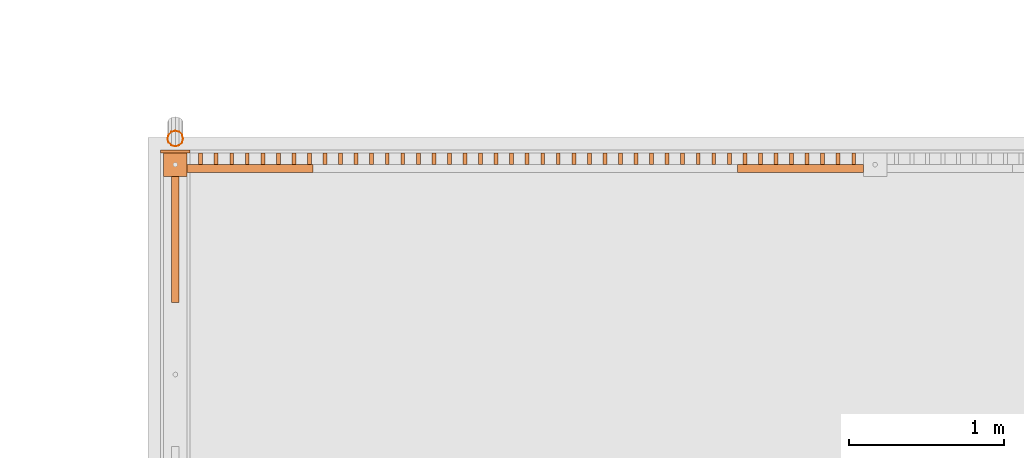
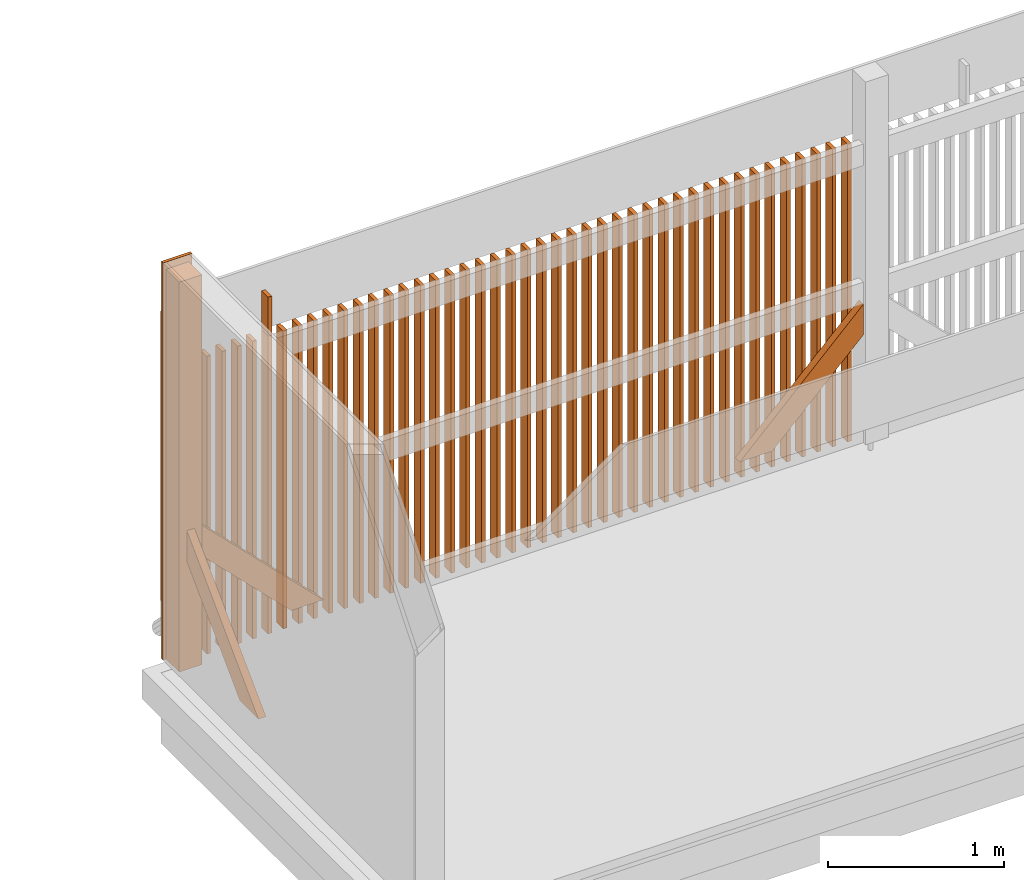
# One storey, part 357 of 418: 51 proxies.
"""IFC2X3 building model written with IfcOpenShell, lengths in millimetres."""

from ifc_helpers import new_model, entity, si_unit, converted_unit, derived_unit, money_unit, direction, frame, frame_2d, origin_with_axes, origin_2d_with_axis, place, context, subcontext, project, spatial, polyline, rectangle, outline, extrude, clip, halfspace, open_shell, surface_model, source, transform, mapped, material, type_object, element, save


model = new_model("IFC2X3")

# Units and contexts
model_context = context("Model", 3, precision=0.01, world=origin_with_axes(), true_north=direction((0.0, 1.0)))
body_context = subcontext(model_context, "Body", "Model", "MODEL_VIEW")
ifc_project = project(units=[si_unit("LENGTHUNIT", "METRE", prefix="MILLI"), si_unit("AREAUNIT", "SQUARE_METRE"), si_unit("VOLUMEUNIT", "CUBIC_METRE"), converted_unit("PLANEANGLEUNIT", "DEGREE", entity("IfcPlaneAngleMeasure", 0.0174532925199), si_unit("PLANEANGLEUNIT", "RADIAN"), dimensions=[0, 0, 0, 0, 0, 0, 0]), si_unit("SOLIDANGLEUNIT", "STERADIAN"), money_unit("EUR"), converted_unit("TIMEUNIT", "Year", entity("IfcTimeMeasure", 31556926.0), si_unit("TIMEUNIT", "SECOND"), dimensions=[0, 0, 1, 0, 0, 0, 0]), si_unit("MASSUNIT", "GRAM", prefix="KILO"), si_unit("THERMODYNAMICTEMPERATUREUNIT", "DEGREE_CELSIUS"), si_unit("LUMINOUSINTENSITYUNIT", "LUMEN"), si_unit("ENERGYUNIT", "JOULE", prefix="MEGA"), derived_unit("THERMALCONDUCTANCEUNIT", [(si_unit("POWERUNIT", "WATT"), 1), (si_unit("LENGTHUNIT", "METRE"), -1), (si_unit("THERMODYNAMICTEMPERATUREUNIT", "KELVIN"), -1)]), derived_unit("SPECIFICHEATCAPACITYUNIT", [(si_unit("ENERGYUNIT", "JOULE"), 1), (si_unit("MASSUNIT", "GRAM", prefix="KILO"), -1), (si_unit("THERMODYNAMICTEMPERATUREUNIT", "KELVIN"), -1)]), derived_unit("MASSDENSITYUNIT", [(si_unit("MASSUNIT", "GRAM", prefix="KILO"), 1), (si_unit("VOLUMEUNIT", "CUBIC_METRE"), -1)])], contexts=[model_context])

# Site, building, storey
site_placement = place(None, origin_with_axes())
site = spatial("IfcSite", under=ifc_project, at=site_placement, Name="Paldiski mnt 245/1, Tallinn, Harjumaa", CompositionType="COMPLEX")
building_placement = place(site_placement, origin_with_axes())
building = spatial("IfcBuilding", under=site, at=building_placement, Name="RKAS Hoone üldnimetus (kasutust iseloomustav) -> IFC Project Manager -> SOLIBRI", CompositionType="ELEMENT")
storey_placement = place(building_placement, origin_with_axes())
storey = spatial("IfcBuildingStorey", under=building, at=storey_placement, Name="Esimene korrus", CompositionType="ELEMENT", Elevation=0.0)

# Proxies
ifc_material_1 = material(Name="Voodrilaud UYS 21x120mm")
building_element_proxy_type_1 = type_object("IfcBuildingElementProxyType", Name="Voodrilaud UYS 21x120mm 20", PredefinedType="NOTDEFINED")
proxy_1_placement = place(storey_placement, frame((-21069.2717928, 14018.7949578, -960.0), z_axis=(0.0, 0.0, 1.0), x_axis=(1.0, 0.0, 0.0)))
element("IfcBuildingElementProxy", 1, at=proxy_1_placement, inside=storey, type_object=building_element_proxy_type_1, material=ifc_material_1, Name="Välissein_1", context=body_context, shape_type="SweptSolid", body=[
    extrude(outline(polyline([(0.0, 0.0), (189.999991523, 0.0), (189.999991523, 20.0), (0.0, 20.0), (0.0, 0.0)])), origin_with_axes(), (0.0, 0.0, 1.0), 2752.59465133),
])
ifc_material_2 = material(Name="Puit konstruktsioon")
building_element_proxy_type_2 = type_object("IfcBuildingElementProxyType", Name="Puit konstruktsioon 50 x 150", PredefinedType="NOTDEFINED")
proxy_2_placement = place(storey_placement, frame((-20974.2718012, 13056.7282668, -810.0), z_axis=(0.0, 0.0, 1.0), x_axis=(1.0, 0.0, 0.0)))
element("IfcBuildingElementProxy", 2, at=proxy_2_placement, inside=storey, type_object=building_element_proxy_type_2, material=ifc_material_2, Name="Puitpruss 150x50 mm", context=body_context, shape_type="Clipping", body=[
    clip(clip(extrude(rectangle(XDim=150.0, YDim=50.0, at=frame_2d((-75.0, 0.0), x_axis=(1.0, 0.0))), frame((0.0, -150.0, -150.0), z_axis=(0.0, 0.707106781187, 0.707106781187), x_axis=(0.0, -0.707106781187, 0.707106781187)), (0.0, 0.0, 1.0), 1574.11401019), halfspace(frame((0.0, 0.0, 0.0), z_axis=(0.0, 0.0, 1.0), x_axis=(0.0, -1.0, 0.0)), True)), halfspace(frame((0.0, 813.066690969, 0.0), z_axis=(0.0, -1.0, 0.0), x_axis=(0.0, 0.0, -1.0)), True)),
])
for number, where, z_axis, x_axis, name in (
    (3, (-20089.2718105, 13919.7949578, -810.0), (0.0, 0.0, 1.0), (0.0, 1.0, 0.0), "Puitpruss 150x50 mm"),
    (4, (-17359.2717919, 13919.7949578, -810.0), (0.0, 0.0, 1.0), (0.0, -1.0, 0.0), "Puitpruss 150x50 mm"),
):
    element("IfcBuildingElementProxy", number, at=place(storey_placement, frame(where, z_axis=z_axis, x_axis=x_axis)), inside=storey, type_object=building_element_proxy_type_2, material=ifc_material_2, Name=name, context=body_context, shape_type="Clipping", body=[
        clip(clip(extrude(rectangle(XDim=150.0, YDim=50.0, at=frame_2d((-75.0, 0.0), x_axis=(1.0, 0.0))), frame((0.0, -150.0, -150.0), z_axis=(0.0, 0.707106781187, 0.707106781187), x_axis=(0.0, -0.707106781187, 0.707106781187)), (0.0, 0.0, 1.0), 1569.77705423), halfspace(frame((0.0, 0.0, 0.0), z_axis=(0.0, 0.0, 1.0), x_axis=(0.0, -1.0, 0.0)), True)), halfspace(frame((0.0, 810.0, 0.0), z_axis=(0.0, -1.0, 0.0), x_axis=(0.0, 0.0, -1.0)), True)),
    ])
building_element_proxy_type_3 = type_object("IfcBuildingElementProxyType", Name="Puit konstruktsioon 25 x 75", PredefinedType="NOTDEFINED")
for number, where, z_axis, x_axis, name in (
    (5, (-18811.7718528, 13982.2949578, -960.0), (0.0, 0.0, 1.0), (-1.0, 0.0, 0.0), "Puitlaud 25x75 mm"),
    (6, (-18711.7718528, 13982.2949578, -960.0), (0.0, 0.0, 1.0), (-1.0, 0.0, 0.0), "Puitlaud 25x75 mm"),
    (7, (-18311.7718528, 13982.2949578, -960.0), (0.0, 0.0, 1.0), (-1.0, 0.0, 0.0), "Puitlaud 25x75 mm"),
    (8, (-18911.7718528, 13982.2949578, -960.0), (0.0, 0.0, 1.0), (-1.0, 0.0, 0.0), "Puitlaud 25x75 mm"),
    (9, (-19111.7718528, 13982.2949578, -960.0), (0.0, 0.0, 1.0), (-1.0, 0.0, 0.0), "Puitlaud 25x75 mm"),
    (10, (-19011.7718528, 13982.2949578, -960.0), (0.0, 0.0, 1.0), (-1.0, 0.0, 0.0), "Puitlaud 25x75 mm"),
    (11, (-18411.7718528, 13982.2949578, -960.0), (0.0, 0.0, 1.0), (-1.0, 0.0, 0.0), "Puitlaud 25x75 mm"),
    (12, (-18511.7718528, 13982.2949578, -960.0), (0.0, 0.0, 1.0), (-1.0, 0.0, 0.0), "Puitlaud 25x75 mm"),
    (13, (-18611.7718528, 13982.2949578, -960.0), (0.0, 0.0, 1.0), (-1.0, 0.0, 0.0), "Puitlaud 25x75 mm"),
    (14, (-18211.7718528, 13982.2949578, -960.0), (0.0, 0.0, 1.0), (-1.0, 0.0, 0.0), "Puitlaud 25x75 mm"),
):
    element("IfcBuildingElementProxy", number, at=place(storey_placement, frame(where, z_axis=z_axis, x_axis=x_axis)), inside=storey, type_object=building_element_proxy_type_3, material=ifc_material_2, Name=name, context=body_context, shape_type="SweptSolid", body=[
        extrude(rectangle(XDim=25.0, YDim=75.0, at=origin_2d_with_axis()), origin_with_axes(), (0.0, 0.0, 1.0), 2063.68114765),
    ])
proxy_3_placement = place(storey_placement, frame((-20411.7718528, 13982.2949578, -960.0), z_axis=(0.0, 0.0, 1.0), x_axis=(-1.0, 0.0, 0.0)))
element("IfcBuildingElementProxy", 15, at=proxy_3_placement, inside=storey, type_object=building_element_proxy_type_3, material=ifc_material_2, Name="Puitlaud 25x75 mm", context=body_context, shape_type="SweptSolid", body=[
    extrude(rectangle(XDim=25.0, YDim=75.0, at=origin_2d_with_axis()), origin_with_axes(), (0.0, 0.0, 1.0), 2334.0),
])
for number, where, z_axis, x_axis, name in (
    (16, (-17211.7718528, 13982.2949578, -960.0), (0.0, 0.0, 1.0), (-1.0, 0.0, 0.0), "Puitlaud 25x75 mm"),
    (17, (-17311.7718528, 13982.2949578, -960.0), (0.0, 0.0, 1.0), (-1.0, 0.0, 0.0), "Puitlaud 25x75 mm"),
    (18, (-17411.7718528, 13982.2949578, -960.0), (0.0, 0.0, 1.0), (-1.0, 0.0, 0.0), "Puitlaud 25x75 mm"),
    (19, (-17511.7718528, 13982.2949578, -960.0), (0.0, 0.0, 1.0), (-1.0, 0.0, 0.0), "Puitlaud 25x75 mm"),
    (20, (-17611.7718528, 13982.2949578, -960.0), (0.0, 0.0, 1.0), (-1.0, 0.0, 0.0), "Puitlaud 25x75 mm"),
    (21, (-17711.7718528, 13982.2949578, -960.0), (0.0, 0.0, 1.0), (-1.0, 0.0, 0.0), "Puitlaud 25x75 mm"),
    (22, (-17811.7718528, 13982.2949578, -960.0), (0.0, 0.0, 1.0), (-1.0, 0.0, 0.0), "Puitlaud 25x75 mm"),
    (23, (-17911.7718528, 13982.2949578, -960.0), (0.0, 0.0, 1.0), (-1.0, 0.0, 0.0), "Puitlaud 25x75 mm"),
    (24, (-18011.7718528, 13982.2949578, -960.0), (0.0, 0.0, 1.0), (-1.0, 0.0, 0.0), "Puitlaud 25x75 mm"),
    (25, (-18111.7718528, 13982.2949578, -960.0), (0.0, 0.0, 1.0), (-1.0, 0.0, 0.0), "Puitlaud 25x75 mm"),
    (26, (-20311.7718528, 13982.2949578, -960.0), (0.0, 0.0, 1.0), (-1.0, 0.0, 0.0), "Puitlaud 25x75 mm"),
    (27, (-20411.7718528, 13982.2949578, -960.0), (0.0, 0.0, 1.0), (-1.0, 0.0, 0.0), "Puitlaud 25x75 mm"),
    (28, (-20311.7718528, 13982.2949578, -960.0), (0.0, 0.0, 1.0), (-1.0, 0.0, 0.0), "Puitlaud 25x75 mm"),
    (29, (-20211.7718528, 13982.2949578, -960.0), (0.0, 0.0, 1.0), (-1.0, 0.0, 0.0), "Puitlaud 25x75 mm"),
    (30, (-20111.7718528, 13982.2949578, -960.0), (0.0, 0.0, 1.0), (-1.0, 0.0, 0.0), "Puitlaud 25x75 mm"),
    (31, (-20011.7718528, 13982.2949578, -960.0), (0.0, 0.0, 1.0), (-1.0, 0.0, 0.0), "Puitlaud 25x75 mm"),
    (32, (-19911.7718528, 13982.2949578, -960.0), (0.0, 0.0, 1.0), (-1.0, 0.0, 0.0), "Puitlaud 25x75 mm"),
    (33, (-19811.7718528, 13982.2949578, -960.0), (0.0, 0.0, 1.0), (-1.0, 0.0, 0.0), "Puitlaud 25x75 mm"),
    (34, (-19711.7718528, 13982.2949578, -960.0), (0.0, 0.0, 1.0), (-1.0, 0.0, 0.0), "Puitlaud 25x75 mm"),
    (35, (-19611.7718528, 13982.2949578, -960.0), (0.0, 0.0, 1.0), (-1.0, 0.0, 0.0), "Puitlaud 25x75 mm"),
    (36, (-19511.7718528, 13982.2949578, -960.0), (0.0, 0.0, 1.0), (-1.0, 0.0, 0.0), "Puitlaud 25x75 mm"),
    (37, (-19411.7718528, 13982.2949578, -960.0), (0.0, 0.0, 1.0), (-1.0, 0.0, 0.0), "Puitlaud 25x75 mm"),
    (38, (-19311.7718528, 13982.2949578, -960.0), (0.0, 0.0, 1.0), (-1.0, 0.0, 0.0), "Puitlaud 25x75 mm"),
    (39, (-19211.7718528, 13982.2949578, -960.0), (0.0, 0.0, 1.0), (-1.0, 0.0, 0.0), "Puitlaud 25x75 mm"),
    (40, (-16611.7718528, 13982.2949578, -960.0), (0.0, 0.0, 1.0), (-1.0, 0.0, 0.0), "Puitlaud 25x75 mm"),
    (41, (-16711.7718528, 13982.2949578, -960.0), (0.0, 0.0, 1.0), (-1.0, 0.0, 0.0), "Puitlaud 25x75 mm"),
    (42, (-16811.7718528, 13982.2949578, -960.0), (0.0, 0.0, 1.0), (-1.0, 0.0, 0.0), "Puitlaud 25x75 mm"),
    (43, (-16911.7718528, 13982.2949578, -960.0), (0.0, 0.0, 1.0), (-1.0, 0.0, 0.0), "Puitlaud 25x75 mm"),
    (44, (-17011.7718528, 13982.2949578, -960.0), (0.0, 0.0, 1.0), (-1.0, 0.0, 0.0), "Puitlaud 25x75 mm"),
    (45, (-17111.7718528, 13982.2949578, -960.0), (0.0, 0.0, 1.0), (-1.0, 0.0, 0.0), "Puitlaud 25x75 mm"),
    (46, (-20511.7718528, 13982.2949578, -960.0), (0.0, 0.0, 1.0), (-1.0, 0.0, 0.0), "Puitlaud 25x75 mm"),
    (47, (-20611.7718528, 13982.2949578, -960.0), (0.0, 0.0, 1.0), (-1.0, 0.0, 0.0), "Puitlaud 25x75 mm"),
    (48, (-20711.7718528, 13982.2949578, -960.0), (0.0, 0.0, 1.0), (-1.0, 0.0, 0.0), "Puitlaud 25x75 mm"),
    (49, (-20811.7718528, 13982.2949578, -960.0), (0.0, 0.0, 1.0), (-1.0, 0.0, 0.0), "Puitlaud 25x75 mm"),
):
    element("IfcBuildingElementProxy", number, at=place(storey_placement, frame(where, z_axis=z_axis, x_axis=x_axis)), inside=storey, type_object=building_element_proxy_type_3, material=ifc_material_2, Name=name, context=body_context, shape_type="SweptSolid", body=[
        extrude(rectangle(XDim=25.0, YDim=75.0, at=origin_2d_with_axis()), origin_with_axes(), (0.0, 0.0, 1.0), 2063.68114765),
    ])
building_element_proxy_type_4 = type_object("IfcBuildingElementProxyType", Name="Downspout 23", PredefinedType="NOTDEFINED")
shared_shape = source(origin_with_axes(), body_context, "Body", "SurfaceModel", [
    surface_model("IfcShellBasedSurfaceModel", [(50.0, 0.0, 2000.0), (43.3012701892, -25.0, 2000.0), (43.3012701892, -25.0, 0.0), (50.0, 0.0, 0.0), (25.0, -43.3012701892, 2000.0), (25.0, -43.3012701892, 0.0), (43.3012701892, 25.0, 2000.0), (43.3012701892, 25.0, 0.0), (0.0, -50.0, 2000.0), (0.0, -50.0, 0.0), (25.0, 43.3012701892, 2000.0), (25.0, 43.3012701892, 0.0), (-25.0, -43.3012701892, 2000.0), (-25.0, -43.3012701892, 0.0), (0.0, 50.0, 2000.0), (0.0, 50.0, 0.0), (-43.3012701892, -25.0, 2000.0), (-43.3012701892, -25.0, 0.0), (-25.0, 43.3012701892, 2000.0), (-25.0, 43.3012701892, 0.0), (-50.0, 0.0, 2000.0), (-50.0, 0.0, 0.0), (-43.3012701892, 25.0, 2000.0), (-43.3012701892, 25.0, 0.0)], [open_shell([[[0, 1, 2, 3]], [[1, 4, 5, 2]], [[6, 0, 3, 7]], [[4, 8, 9, 5]], [[10, 6, 7, 11]], [[8, 12, 13, 9]], [[14, 10, 11, 15]], [[12, 16, 17, 13]], [[18, 14, 15, 19]], [[16, 20, 21, 17]], [[22, 18, 19, 23]], [[20, 22, 23, 21]]])]),
])
proxy_4_placement = place(storey_placement, frame((-20974.2718012, 14111.438141, -631.900357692), z_axis=(0.0, 0.0, 1.0), x_axis=(-1.0, 0.0, 0.0)))
element("IfcBuildingElementProxy", 50, at=proxy_4_placement, inside=storey, type_object=building_element_proxy_type_4, Name="Vihmaveetoru", context=body_context, shape_type="MappedRepresentation", body=[
    mapped(shared_shape, transform((0.0, 0.0, 0.0))),
])
building_element_proxy_type_5 = type_object("IfcBuildingElementProxyType", Name="Puit konstruktsioon 150 x 150", PredefinedType="NOTDEFINED")
proxy_5_placement = place(storey_placement, frame((-20974.2718528, 13944.7949578, -960.0), z_axis=(0.0, 0.0, 1.0), x_axis=(-1.0, 0.0, 0.0)))
element("IfcBuildingElementProxy", 51, at=proxy_5_placement, inside=storey, type_object=building_element_proxy_type_5, material=ifc_material_2, Name="Puitpruss 150x150 mm", context=body_context, shape_type="SweptSolid", body=[
    extrude(rectangle(XDim=150.0, YDim=150.0, at=origin_2d_with_axis()), origin_with_axes(), (0.0, 0.0, 1.0), 2702.59465133),
])

save(model, "model.ifc")
